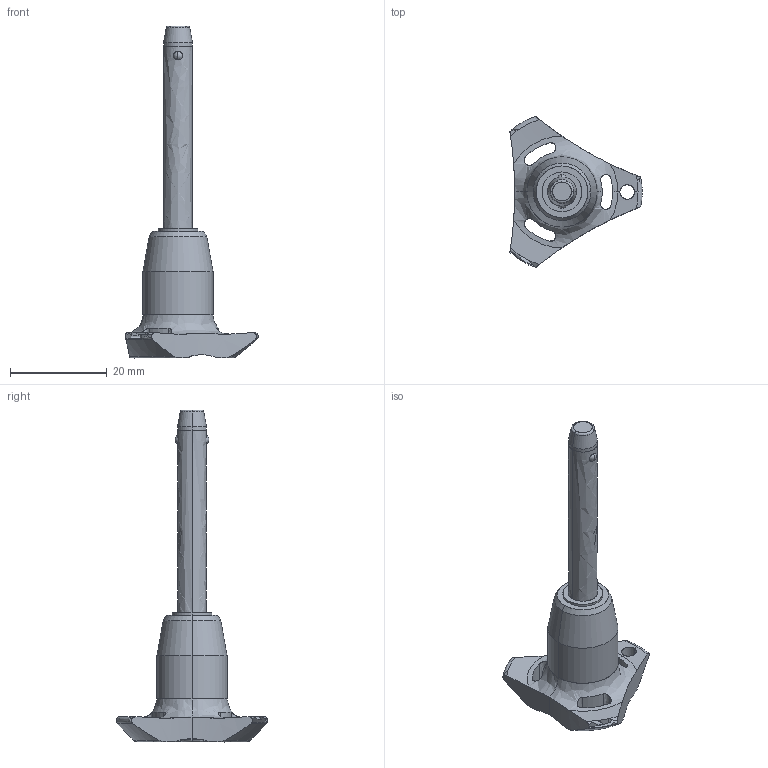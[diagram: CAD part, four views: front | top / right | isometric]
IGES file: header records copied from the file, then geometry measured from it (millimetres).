
Start section: SolidWorks IGES file using analytic representation for surfaces
Global section: file name: C:\Users\ianosborn\Desktop\33060_v2\33060.BK_v2_20240910_IGES\33060.W0827.igs; native system: SolidWorks 2019; preprocessor: SolidWorks 2019; author: IanOsborn; date: 240910.200734; units: millimetre
Bounding box: 27.4 x 31.31 x 68.7 mm (x, y, z)
Surface area: 3212.7 mm2 (no closed solid volume)
Topology: 0 solids, 0 shells, 69 faces, 1323 edges, 1304 vertices
Faces by surface type: revolution 52, bspline 17
